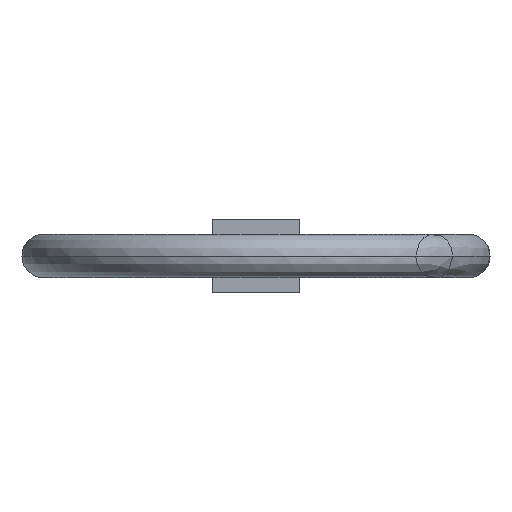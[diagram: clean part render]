
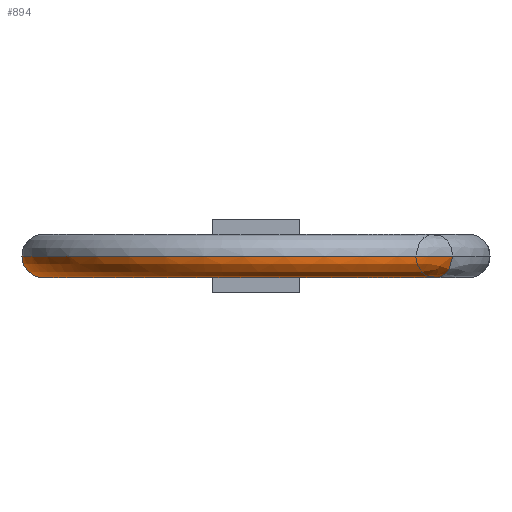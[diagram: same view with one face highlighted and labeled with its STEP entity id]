
A CAD part, left-side view. The second image highlights one B-rep face of the part: STEP entity #894.
In plain terms, the highlighted free-form (B-spline) face has degree [3, 3] with [7, 4] control points.
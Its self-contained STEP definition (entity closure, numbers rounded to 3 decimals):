
#5 = CIRCLE ( 'NONE', #6, 0.75 ) ;
#6 = AXIS2_PLACEMENT_3D ( 'NONE', #7, #8, #9 ) ;
#7 = CARTESIAN_POINT ( 'NONE',  ( -288.06, 6.086, 0. ) ) ;
#8 = DIRECTION ( 'NONE',  ( -0.839, 0.543, 0. ) ) ;
#9 = DIRECTION ( 'NONE',  ( -0.543, -0.839, 0. ) ) ;
#82 = CIRCLE ( 'NONE', #83, 6.5 ) ;
#83 = AXIS2_PLACEMENT_3D ( 'NONE', #84, #86, #87 ) ;
#84 = CARTESIAN_POINT ( 'NONE',  ( -292., 0., 0. ) ) ;
#86 = DIRECTION ( 'NONE',  ( 0., 0., 1. ) ) ;
#87 = DIRECTION ( 'NONE',  ( -0.543, -0.839, 0. ) ) ;
#242 = EDGE_CURVE ( 'NONE', #1067, #319, #5, .T. ) ;
#268 = ORIENTED_EDGE ( 'NONE', *, *, #242, .T. ) ;
#308 = ORIENTED_EDGE ( 'NONE', *, *, #1410, .T. ) ;
#319 = VERTEX_POINT ( 'NONE', #1325 ) ;
#338 = EDGE_CURVE ( 'NONE', #319, #398, #82, .T. ) ;
#349 = EDGE_CURVE ( 'NONE', #398, #1268, #530, .T. ) ;
#378 = ORIENTED_EDGE ( 'NONE', *, *, #349, .T. ) ;
#398 = VERTEX_POINT ( 'NONE', #1243 ) ;
#402 = ORIENTED_EDGE ( 'NONE', *, *, #338, .T. ) ;
#477 = CIRCLE ( 'NONE', #478, 8. ) ;
#478 = AXIS2_PLACEMENT_3D ( 'NONE', #479, #480, #481 ) ;
#479 = CARTESIAN_POINT ( 'NONE',  ( -292., 0., 0. ) ) ;
#480 = DIRECTION ( 'NONE',  ( 0., 0., -1. ) ) ;
#481 = DIRECTION ( 'NONE',  ( -0.543, -0.839, 0. ) ) ;
#530 =( BOUNDED_CURVE ( )  B_SPLINE_CURVE ( 3, ( #531, #532, #533, #534, #535, #536, #538 ),
 .UNSPECIFIED., .F., .T. ) 
 B_SPLINE_CURVE_WITH_KNOTS ( ( 4, 3, 4 ),
 ( 0.021, 0.5, 0.979 ),
 .UNSPECIFIED. ) 
 CURVE ( )  GEOMETRIC_REPRESENTATION_ITEM ( )  RATIONAL_B_SPLINE_CURVE ( ( 0.974, 0.79, 0.799, 1., 0.799, 0.79, 0.974 ) ) 
 REPRESENTATION_ITEM ( '' )  );
#531 = CARTESIAN_POINT ( 'NONE',  ( -295.533, -5.456, 0. ) ) ;
#532 = CARTESIAN_POINT ( 'NONE',  ( -295.533, -5.456, -0.442 ) ) ;
#533 = CARTESIAN_POINT ( 'NONE',  ( -295.703, -5.719, -0.75 ) ) ;
#534 = CARTESIAN_POINT ( 'NONE',  ( -295.94, -6.086, -0.75 ) ) ;
#535 = CARTESIAN_POINT ( 'NONE',  ( -296.178, -6.453, -0.75 ) ) ;
#536 = CARTESIAN_POINT ( 'NONE',  ( -296.348, -6.715, -0.442 ) ) ;
#538 = CARTESIAN_POINT ( 'NONE',  ( -296.348, -6.715, 0. ) ) ;
#673 = EDGE_LOOP ( 'NONE', ( #402, #378, #308, #268 ) ) ;
#894 = ADVANCED_FACE ( 'NONE', ( #950 ), #951, .F. ) ;
#950 = FACE_OUTER_BOUND ( 'NONE', #673, .T. ) ;
#951 =( BOUNDED_SURFACE ( )  B_SPLINE_SURFACE ( 3, 3, ( 
 ( #952, #953, #954, #955 ),
 ( #956, #957, #958, #959 ),
 ( #960, #961, #962, #963 ),
 ( #964, #965, #968, #969 ),
 ( #970, #971, #972, #973 ),
 ( #974, #975, #976, #977 ),
 ( #978, #979, #980, #981 ) ),
 .UNSPECIFIED., .F., .F., .T. ) 
 B_SPLINE_SURFACE_WITH_KNOTS ( ( 4, 3, 4 ),
 ( 4, 4 ),
 ( 0.021, 0.5, 0.979 ),
 ( 0., 1. ),
 .UNSPECIFIED. ) 
 GEOMETRIC_REPRESENTATION_ITEM ( )  RATIONAL_B_SPLINE_SURFACE ( (
 ( 0.974, 0.325, 0.325, 0.974),
 ( 0.79, 0.263, 0.263, 0.79),
 ( 0.799, 0.266, 0.266, 0.799),
 ( 1., 0.333, 0.333, 1.),
 ( 0.799, 0.266, 0.266, 0.799),
 ( 0.79, 0.263, 0.263, 0.79),
 ( 0.974, 0.325, 0.325, 0.974) ) ) 
 REPRESENTATION_ITEM ( '' )  SURFACE ( )  );
#952 = CARTESIAN_POINT ( 'NONE',  ( -288.467, 5.456, 0. ) ) ;
#953 = CARTESIAN_POINT ( 'NONE',  ( -299.38, 12.521, 0. ) ) ;
#954 = CARTESIAN_POINT ( 'NONE',  ( -306.445, 1.609, 0. ) ) ;
#955 = CARTESIAN_POINT ( 'NONE',  ( -295.533, -5.456, 0. ) ) ;
#956 = CARTESIAN_POINT ( 'NONE',  ( -288.467, 5.456, -0.442 ) ) ;
#957 = CARTESIAN_POINT ( 'NONE',  ( -299.38, 12.521, -0.442 ) ) ;
#958 = CARTESIAN_POINT ( 'NONE',  ( -306.445, 1.609, -0.442 ) ) ;
#959 = CARTESIAN_POINT ( 'NONE',  ( -295.533, -5.456, -0.442 ) ) ;
#960 = CARTESIAN_POINT ( 'NONE',  ( -288.297, 5.719, -0.75 ) ) ;
#961 = CARTESIAN_POINT ( 'NONE',  ( -299.735, 13.124, -0.75 ) ) ;
#962 = CARTESIAN_POINT ( 'NONE',  ( -307.141, 1.686, -0.75 ) ) ;
#963 = CARTESIAN_POINT ( 'NONE',  ( -295.703, -5.719, -0.75 ) ) ;
#964 = CARTESIAN_POINT ( 'NONE',  ( -288.06, 6.086, -0.75 ) ) ;
#965 = CARTESIAN_POINT ( 'NONE',  ( -300.232, 13.966, -0.75 ) ) ;
#968 = CARTESIAN_POINT ( 'NONE',  ( -308.112, 1.794, -0.75 ) ) ;
#969 = CARTESIAN_POINT ( 'NONE',  ( -295.94, -6.086, -0.75 ) ) ;
#970 = CARTESIAN_POINT ( 'NONE',  ( -287.822, 6.453, -0.75 ) ) ;
#971 = CARTESIAN_POINT ( 'NONE',  ( -300.728, 14.808, -0.75 ) ) ;
#972 = CARTESIAN_POINT ( 'NONE',  ( -309.083, 1.903, -0.75 ) ) ;
#973 = CARTESIAN_POINT ( 'NONE',  ( -296.178, -6.453, -0.75 ) ) ;
#974 = CARTESIAN_POINT ( 'NONE',  ( -287.652, 6.715, -0.442 ) ) ;
#975 = CARTESIAN_POINT ( 'NONE',  ( -301.083, 15.411, -0.442 ) ) ;
#976 = CARTESIAN_POINT ( 'NONE',  ( -309.779, 1.98, -0.442 ) ) ;
#977 = CARTESIAN_POINT ( 'NONE',  ( -296.348, -6.715, -0.442 ) ) ;
#978 = CARTESIAN_POINT ( 'NONE',  ( -287.652, 6.715, 0. ) ) ;
#979 = CARTESIAN_POINT ( 'NONE',  ( -301.083, 15.411, 0. ) ) ;
#980 = CARTESIAN_POINT ( 'NONE',  ( -309.779, 1.98, 0. ) ) ;
#981 = CARTESIAN_POINT ( 'NONE',  ( -296.348, -6.715, 0. ) ) ;
#1067 = VERTEX_POINT ( 'NONE', #1188 ) ;
#1188 = CARTESIAN_POINT ( 'NONE',  ( -287.652, 6.715, 0. ) ) ;
#1243 = CARTESIAN_POINT ( 'NONE',  ( -295.533, -5.456, 0. ) ) ;
#1268 = VERTEX_POINT ( 'NONE', #1396 ) ;
#1325 = CARTESIAN_POINT ( 'NONE',  ( -288.467, 5.456, 0. ) ) ;
#1396 = CARTESIAN_POINT ( 'NONE',  ( -296.348, -6.715, 0. ) ) ;
#1410 = EDGE_CURVE ( 'NONE', #1268, #1067, #477, .T. ) ;
